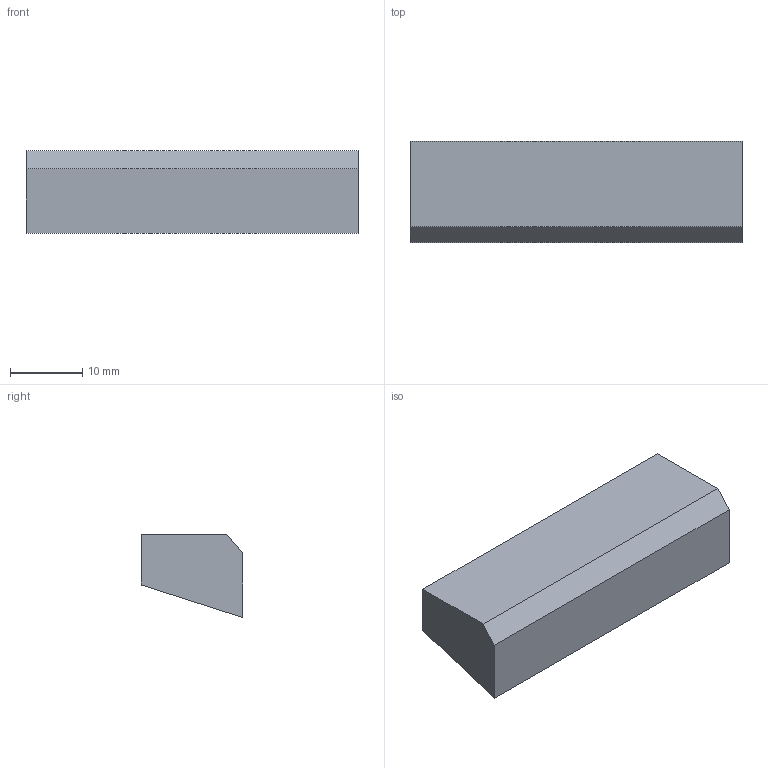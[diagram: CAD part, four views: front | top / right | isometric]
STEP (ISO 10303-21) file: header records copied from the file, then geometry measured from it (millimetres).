
FILE_DESCRIPTION(('Open CASCADE Model'),'2;1');
FILE_NAME('Open CASCADE Shape Model','2026-10-15T18:58:36',('Author'),( 'Open CASCADE'),'Open CASCADE STEP processor 7.9','Open CASCADE 7.9' ,'Unknown');
FILE_SCHEMA(('AUTOMOTIVE_DESIGN { 1 0 10303 214 1 1 1 1 }'));
Length unit declared in the file: millimetre
Products named in the file (1): Open CASCADE STEP translator 7.9 31
Bounding box: 46 x 14 x 11.5 mm (x, y, z)
Volume: 5830.5 mm3; surface area: 2361.9 mm2
Topology: 1 solids, 1 shells, 7 faces, 15 edges, 10 vertices
Faces by surface type: plane 7
Entity records: 394 total; most frequent: CARTESIAN_POINT 63, DIRECTION 61, LINE 45, VECTOR 45, ORIENTED_EDGE 30, PCURVE 30, DEFINITIONAL_REPRESENTATION 30, EDGE_CURVE 15
